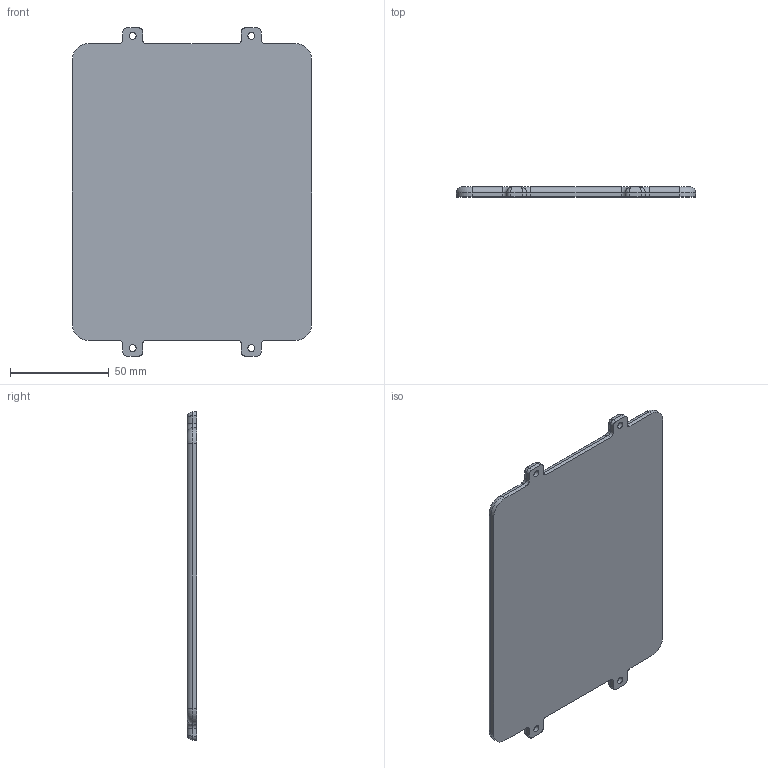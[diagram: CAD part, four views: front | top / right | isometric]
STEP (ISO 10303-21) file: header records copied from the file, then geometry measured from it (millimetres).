
FILE_DESCRIPTION((''),'2;1');
FILE_NAME('000','2025-08-29T19:10:39',('15058'),(''),'CREO PARAMETRIC BY PTC INC, 2024063','CREO PARAMETRIC BY PTC INC, 2024063','');
FILE_SCHEMA(('CONFIG_CONTROL_DESIGN'));
Length unit declared in the file: millimetre
Products named in the file (1): 000
Bounding box: 121 x 5 x 166 mm (x, y, z)
Volume: 90772.1 mm3; surface area: 39114.5 mm2
Topology: 1 solids, 1 shells, 90 faces, 228 edges, 136 vertices
Faces by surface type: cylinder 48, plane 22, torus 12, bspline 8
Entity records: 3242 total; most frequent: CARTESIAN_POINT 1030, DIRECTION 468, ORIENTED_EDGE 456, EDGE_CURVE 228, AXIS2_PLACEMENT_3D 178, VERTEX_POINT 136, VECTOR 112, LINE 112
